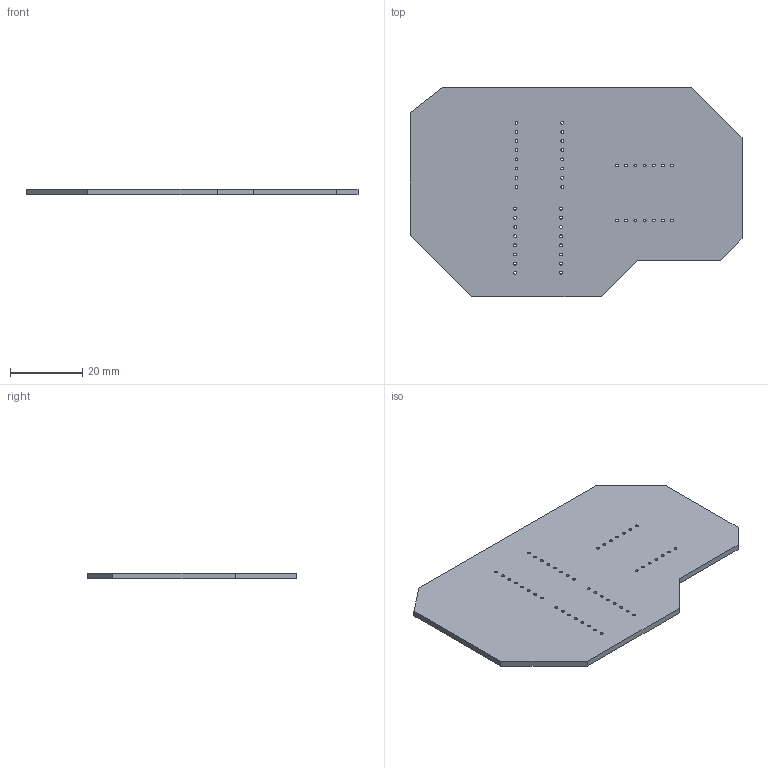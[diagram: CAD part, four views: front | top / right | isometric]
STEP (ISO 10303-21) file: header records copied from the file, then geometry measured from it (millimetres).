
FILE_DESCRIPTION(('KiCad electronic assembly'),'2;1');
FILE_NAME('fotodiodo y led.step','2024-11-25T14:48:48',('Pcbnew'),( 'Kicad'),'Open CASCADE STEP processor 7.7','KiCad to STEP converter' ,'Unknown');
FILE_SCHEMA(('AUTOMOTIVE_DESIGN { 1 0 10303 214 1 1 1 1 }'));
Length unit declared in the file: millimetre
Products named in the file (2): fotodiodo y led 1; _autosave-fotodiodo y led_PCB
Assembly tree (1 placements, depth 2):
  fotodiodo y led 1
    _autosave-fotodiodo y led_PCB
Bounding box: 92 x 58 x 1.6 mm (x, y, z)
Volume: 7489.4 mm3; surface area: 9975.3 mm2
Topology: 1 solids, 1 shells, 58 faces, 168 edges, 112 vertices
Faces by surface type: cylinder 46, plane 12
Full cylindrical faces by diameter (mm): 0.8 x46
Entity records: 2185 total; most frequent: DIRECTION 380, CARTESIAN_POINT 340, ORIENTED_EDGE 336, EDGE_CURVE 168, AXIS2_PLACEMENT_3D 152, FACE_BOUND 150, EDGE_LOOP 150, VERTEX_POINT 112
